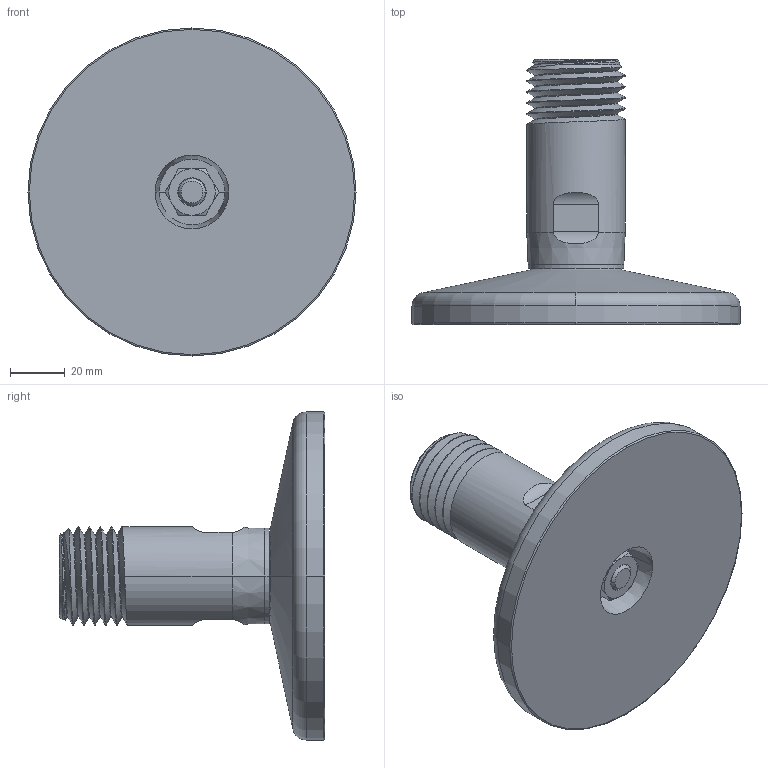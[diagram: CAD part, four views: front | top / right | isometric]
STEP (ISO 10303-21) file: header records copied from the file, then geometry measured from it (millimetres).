
FILE_DESCRIPTION((''),'1');
FILE_NAME('LALAM_M36.step','2024-03-04T09:06:51',(''),(''),'','','');
FILE_SCHEMA(('AUTOMOTIVE_DESIGN { 1 0 10303 214 1 1 1 1 }'));
Products named in the file (6): LALAM part 01; LALAM part 03; LALAM part 05; LALAM part 06; LALAM nut 01
Assembly tree (5 placements, depth 3):
  LALAM part 01
    LALAM part 01
      LALAM part 03
      LALAM part 05
      LALAM part 06
      LALAM nut 01
Bounding box: 120 x 97 x 120 mm (x, y, z)
Volume: 236077 mm3; surface area: 43025.6 mm2
Topology: 4 solids, 4 shells, 106 faces, 259 edges, 165 vertices
Faces by surface type: cylinder 34, cone 33, plane 20, torus 14, bspline 3, sphere 2
Entity records: 7820 total; most frequent: CARTESIAN_POINT 5165, DIRECTION 543, ORIENTED_EDGE 518, EDGE_CURVE 259, AXIS2_PLACEMENT_3D 237, VERTEX_POINT 165, CIRCLE 125, EDGE_LOOP 116
